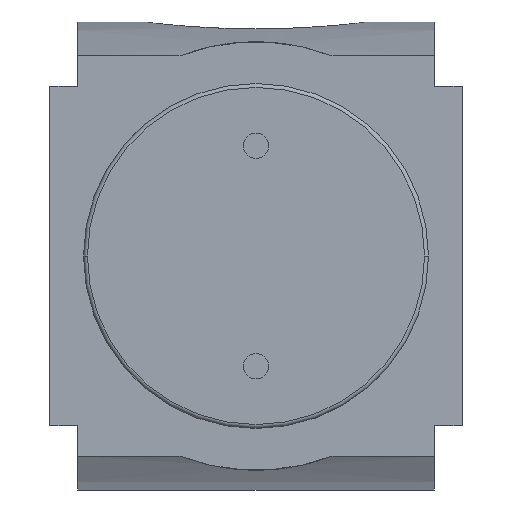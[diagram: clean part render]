
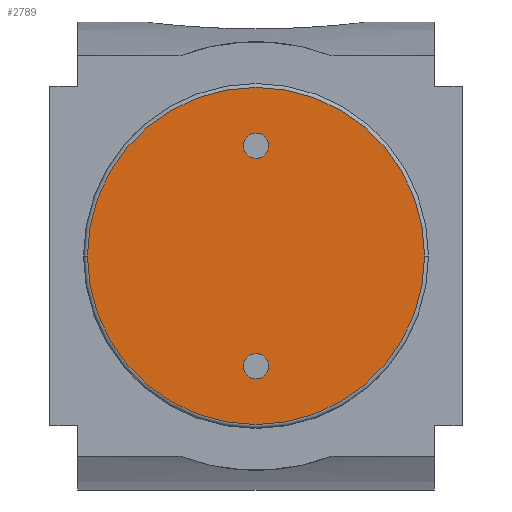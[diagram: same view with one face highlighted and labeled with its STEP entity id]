
A CAD part, front view. The second image highlights one B-rep face of the part: STEP entity #2789.
In plain terms, the highlighted planar face has unit normal (0, -1, 0).
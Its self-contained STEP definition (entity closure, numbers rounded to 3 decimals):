
#949=CARTESIAN_POINT('',(0.,-32.8,0.));
#950=DIRECTION('',(0.,-1.,0.));
#951=DIRECTION('',(-1.,0.,0.));
#952=AXIS2_PLACEMENT_3D('',#949,#950,#951);
#954=CARTESIAN_POINT('',(0.,-32.8,0.));
#955=DIRECTION('',(0.,1.,0.));
#956=DIRECTION('',(-1.,0.,0.));
#957=AXIS2_PLACEMENT_3D('',#954,#955,#956);
#959=CARTESIAN_POINT('',(0.,-32.8,13.9));
#960=DIRECTION('',(0.,-1.,0.));
#961=DIRECTION('',(0.,0.,-1.));
#962=AXIS2_PLACEMENT_3D('',#959,#960,#961);
#964=CARTESIAN_POINT('',(0.,-32.8,13.9));
#965=DIRECTION('',(0.,-1.,0.));
#966=DIRECTION('',(0.,0.,1.));
#967=AXIS2_PLACEMENT_3D('',#964,#965,#966);
#969=CARTESIAN_POINT('',(0.,-32.8,-13.9));
#970=DIRECTION('',(0.,-1.,0.));
#971=DIRECTION('',(0.,0.,-1.));
#972=AXIS2_PLACEMENT_3D('',#969,#970,#971);
#974=CARTESIAN_POINT('',(0.,-32.8,-13.9));
#975=DIRECTION('',(0.,-1.,0.));
#976=DIRECTION('',(0.,0.,1.));
#977=AXIS2_PLACEMENT_3D('',#974,#975,#976);
#1677=CARTESIAN_POINT('',(-21.25,-32.8,0.));
#1678=VERTEX_POINT('',#1677);
#1683=CARTESIAN_POINT('',(21.25,-32.8,0.));
#1684=VERTEX_POINT('',#1683);
#1701=CARTESIAN_POINT('',(0.,-32.8,12.3));
#1702=CARTESIAN_POINT('',(0.,-32.8,15.5));
#1703=VERTEX_POINT('',#1701);
#1704=VERTEX_POINT('',#1702);
#1705=CARTESIAN_POINT('',(0.,-32.8,-15.5));
#1706=CARTESIAN_POINT('',(0.,-32.8,-12.3));
#1707=VERTEX_POINT('',#1705);
#1708=VERTEX_POINT('',#1706);
#2768=CARTESIAN_POINT('',(0.,-32.8,0.));
#2769=DIRECTION('',(0.,1.,0.));
#2770=DIRECTION('',(1.,0.,0.));
#2771=AXIS2_PLACEMENT_3D('',#2768,#2769,#2770);
#2772=PLANE('',#2771);
#2773=ORIENTED_EDGE('',*,*,#2747,.F.);
#2774=ORIENTED_EDGE('',*,*,#2763,.T.);
#2775=EDGE_LOOP('',(#2773,#2774));
#2776=FACE_OUTER_BOUND('',#2775,.F.);
#2778=ORIENTED_EDGE('',*,*,#2777,.T.);
#2780=ORIENTED_EDGE('',*,*,#2779,.T.);
#2781=EDGE_LOOP('',(#2778,#2780));
#2782=FACE_BOUND('',#2781,.F.);
#2784=ORIENTED_EDGE('',*,*,#2783,.T.);
#2786=ORIENTED_EDGE('',*,*,#2785,.T.);
#2787=EDGE_LOOP('',(#2784,#2786));
#2788=FACE_BOUND('',#2787,.F.);
#2789=ADVANCED_FACE('',(#2776,#2782,#2788),#2772,.F.);
#953=CIRCLE('',#952,21.25);
#958=CIRCLE('',#957,21.25);
#963=CIRCLE('',#962,1.6);
#968=CIRCLE('',#967,1.6);
#973=CIRCLE('',#972,1.6);
#978=CIRCLE('',#977,1.6);
#2747=EDGE_CURVE('',#1678,#1684,#953,.T.);
#2763=EDGE_CURVE('',#1678,#1684,#958,.T.);
#2777=EDGE_CURVE('',#1703,#1704,#963,.T.);
#2779=EDGE_CURVE('',#1704,#1703,#968,.T.);
#2783=EDGE_CURVE('',#1707,#1708,#973,.T.);
#2785=EDGE_CURVE('',#1708,#1707,#978,.T.);
